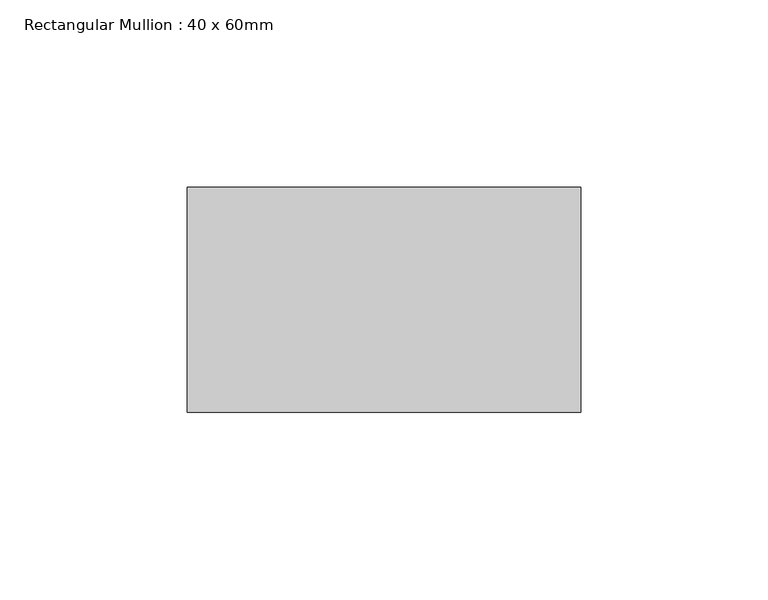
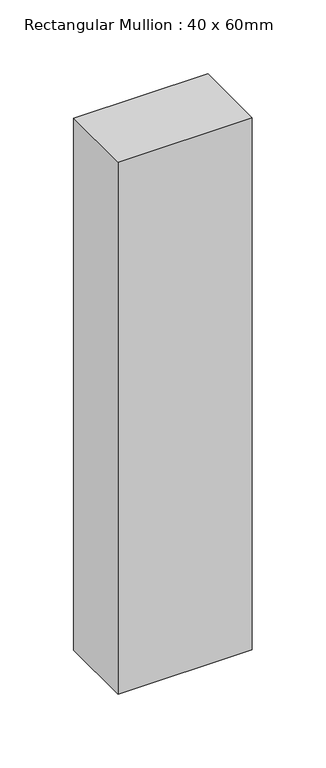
"""IFC4 building model written with IfcOpenShell, lengths in millimetres: member geometry, Rectangular Mullion : 40 x 60mm."""

from ifc_helpers import new_model, si_unit, frame, origin, place, context, project, spatial, polyline, outline, extrude, source, transform, mapped, element, save


def rectangular_mullion_40_x_60mm_8df8d816(model_context):
    return source(origin(), model_context, "Body", "SweptSolid", [
        extrude(outline(polyline([(0.0, -10.0), (0.0, -70.0), (-105.0, -70.0), (-105.0, -10.0), (0.0, -10.0)])), frame((0.0, 0.0, -440.0), z_axis=(0.0, 0.0, 1.0), x_axis=(1.0, 0.0, 0.0)), (0.0, 0.0, 1.0), 440.0),
    ])


if __name__ == "__main__":
    model = new_model("IFC4")
    model_context = context("Model", 3, world=origin())
    ifc_project = project(units=[si_unit("LENGTHUNIT", "METRE", prefix="MILLI")], contexts=[model_context])
    site = spatial("IfcSite", under=ifc_project)
    building = spatial("IfcBuilding", under=site)
    placement = place(None, origin())
    rectangular_mullion_40_x_60mm_shape = rectangular_mullion_40_x_60mm_8df8d816(model_context)
    element("IfcMember", 1, ObjectType="Rectangular Mullion : 40 x 60mm", at=placement, inside=building, context=model_context, shape_type="MappedRepresentation", body=[
        mapped(rectangular_mullion_40_x_60mm_shape, transform((0.0, 0.0, 0.0), x_axis=(1.0, 0.0, 0.0), y_axis=(0.0, 1.0, 0.0), z_axis=(0.0, 0.0, 1.0))),
    ])
    save(model, "model.ifc")
